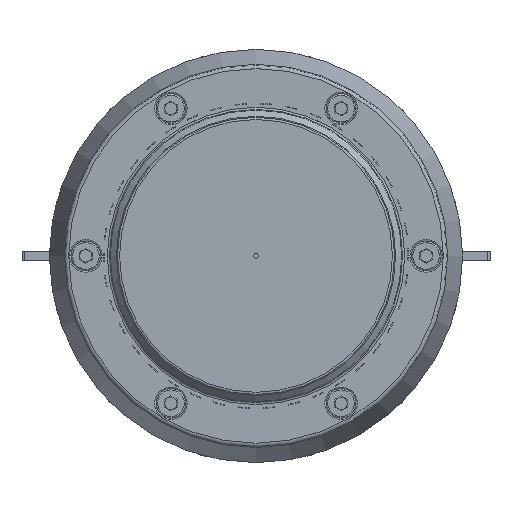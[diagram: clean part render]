
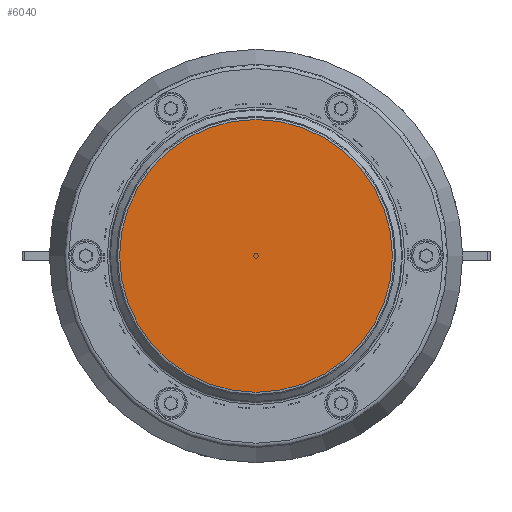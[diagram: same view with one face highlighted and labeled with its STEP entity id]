
A CAD part, top view. The second image highlights one B-rep face of the part: STEP entity #6040.
In plain terms, the highlighted planar face has unit normal (0, 0, 1).
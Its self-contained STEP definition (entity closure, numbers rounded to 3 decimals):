
#6040=ADVANCED_FACE('',(#20919),#20921,.T.);
#20919=FACE_BOUND('',#20920,.T.);
#20920=EDGE_LOOP('',(#97883));
#20921=PLANE('',#20922);
#20922=AXIS2_PLACEMENT_3D('',#20923,#20924,#20925);
#20923=CARTESIAN_POINT('',(0.,0.,0.));
#20924=DIRECTION('',(0.,0.,1.));
#20925=DIRECTION('',(-1.,0.,0.));
#97883=ORIENTED_EDGE('',*,*,#104642,.F.);
#104642=EDGE_CURVE('',#111493,#111493,#111494,.T.);
#111493=VERTEX_POINT('',#149074);
#111494=CIRCLE('',#149075,179.515);
#149074=CARTESIAN_POINT('',(-179.515,0.,0.));
#149075=AXIS2_PLACEMENT_3D('',#149076,#149077,#149078);
#149076=CARTESIAN_POINT('',(0.,0.,0.));
#149077=DIRECTION('',(0.,0.,-1.));
#149078=DIRECTION('',(-1.,0.,0.));
